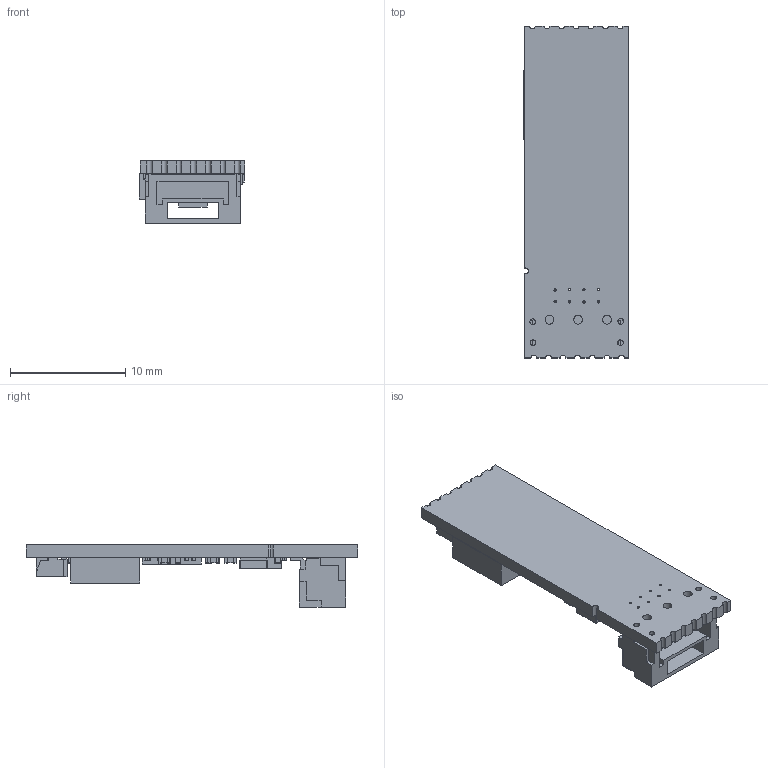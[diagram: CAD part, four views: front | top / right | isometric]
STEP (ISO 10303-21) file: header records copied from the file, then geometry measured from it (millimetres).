
FILE_DESCRIPTION(('Open CASCADE Model'),'2;1');
FILE_NAME('Open CASCADE Shape Model','2022-02-10T13:39:28',('Author'),( 'Open CASCADE'),'Open CASCADE STEP processor 6.8','Open CASCADE 6.8' ,'Unknown');
FILE_SCHEMA(('AUTOMOTIVE_DESIGN { 1 0 10303 214 1 1 1 1 }'));
Length unit declared in the file: millimetre
Products named in the file (62): PCB; Board; Open CASCADE STEP translator 6.8 1.1.1; Open CASCADE STEP translator 6.8 1.1.1.1; C19; cap_0402; C17; C16; C6; C5; SWD; SM06B-SURS-TF; C39; cap_0201; C40; Flow_1; 3901FLOW; C14; C15; C18; C20; C1; C2; C22; C3; C4; C10; LIDAR1; VL53L0X; R11; res_0201; R3; res_0402; R4; R6; R7; R10; R1; R5; C21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
Assembly tree (105 placements, depth 5):
  PCB
    Board
      Open CASCADE STEP translator 6.8 1.1.1
        Open CASCADE STEP translator 6.8 1.1.1.1
    C19
      cap_0402
    C17
      cap_0402
    C16
      cap_0402
    C6
      cap_0402
    C5
      cap_0402
    SWD
      SM06B-SURS-TF
    C39
      cap_0201
    C40
      cap_0201
    Flow_1
      3901FLOW
    C14
      cap_0201
    C15
      cap_0201
    C18
      cap_0201
    C20
      cap_0201
    C1
      cap_0201
    C2
      cap_0201
    C22
      cap_0201
    C3
      cap_0201
    C4
      cap_0201
    C10
      cap_0201
    LIDAR1
      VL53L0X
    R11
      res_0201
    R3
      res_0402
    R4
      res_0402
    R6
      res_0402
    R7
      res_0402
    R10
      res_0402
    R1
      res_0402
    R5
      res_0402
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Bounding box: 9.18 x 28.85 x 5.42 mm (x, y, z)
Volume: 506.3 mm3; surface area: 1365.6 mm2
Topology: 61 solids, 62 shells, 2360 faces, 5701 edges, 3356 vertices
Faces by surface type: plane 1256, cylinder 807, sphere 266, bspline 31
Full cylindrical faces by diameter (mm): 0.2 x8, 0.375 x1, 0.5 x4, 0.762 x3
Entity records: 34250 total; most frequent: CARTESIAN_POINT 6828, ORIENTED_EDGE 4561, DIRECTION 4540, EDGE_CURVE 2281, LINE 1900, VECTOR 1900, VERTEX_POINT 1484, AXIS2_PLACEMENT_3D 1320
